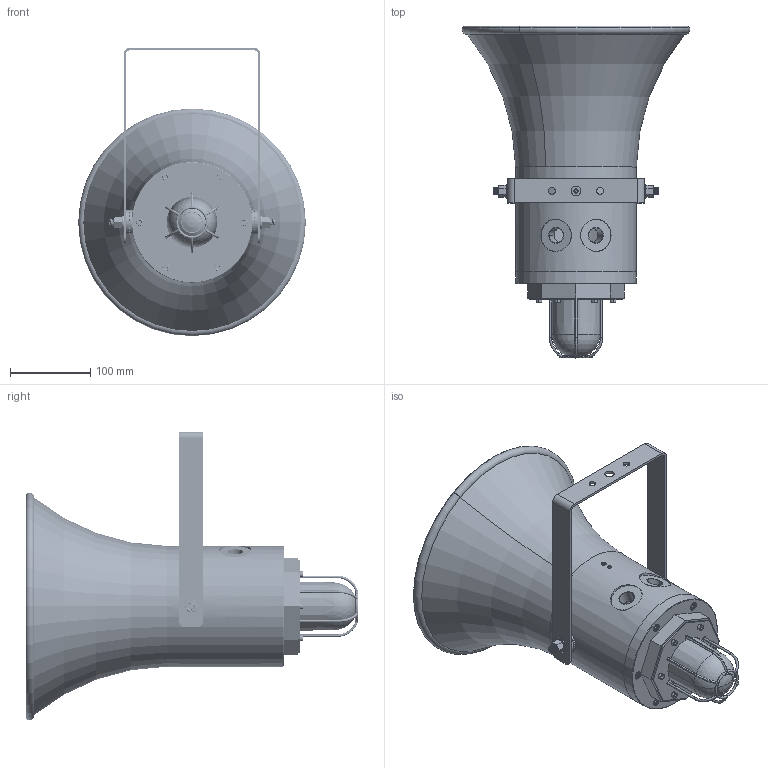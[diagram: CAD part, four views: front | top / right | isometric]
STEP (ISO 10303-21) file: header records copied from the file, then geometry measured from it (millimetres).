
FILE_DESCRIPTION((''),'2;1');
FILE_NAME('0-SB150_ASM','2015-12-21T',('Administrator'),(''),'PRO/ENGINEER BY PARAMETRIC TECHNOLOGY CORPORATION, 2008090','PRO/ENGINEER BY PARAMETRIC TECHNOLOGY CORPORATION, 2008090','');
FILE_SCHEMA(('CONFIG_CONTROL_DESIGN'));
Length unit declared in the file: millimetre
Products named in the file (33): 55050250101; 55050250104; 50050250105; 50050250106; 50050250201; 50050210203; 55050140504; 50050150505; CG; HS; 50050150506; MQ; 50050150501; 55050110107; 55050100620_ASM; 50050280237; 50000010301-M5; M4-10; 50050110204; SPWF8; SANN8-1; 55060250102; 55060170107; 55060250108; 50050210110; 50060210109; 50070150602; 50070150601; 50070120605; 50070150601_ASM; BC150-UPPER-CASE_ASM; 50050110230; 0-SB150_ASM
Assembly tree (56 placements, depth 4):
  0-SB150_ASM
    55050250101
    55050250104
    50050250105
    50050250106
    50050250201  x2
    50050210203
    55050100620_ASM
      55050140504
      50050150505
      CG
      HS
      50050150506
      MQ
      50050150501
      55050110107
    50050280237
    50000010301-M5  x6
    M4-10  x3
    50050110204  x2
    SPWF8  x2
    SANN8-1  x2
    BC150-UPPER-CASE_ASM
      55060250102
      55060170107
      55060250108
      50050210110
      M4-10  x6
      50060210109
      50000010301-M5  x6
      50050280237
      50070150601_ASM
        50070150602
        50070150601
        50070120605
    50050110230
Bounding box: 282.76 x 412.25 x 358.13 mm (x, y, z)
Volume: 3149597.6 mm3; surface area: 897822.3 mm2
Topology: 53 solids, 136 shells, 3795 faces, 9728 edges, 6231 vertices
Faces by surface type: plane 1856, cylinder 1008, cone 380, bspline 260, sphere 156, torus 135
Entity records: 117710 total; most frequent: CARTESIAN_POINT 41407, ORIENTED_EDGE 15966, DIRECTION 15083, EDGE_CURVE 8107, AXIS2_PLACEMENT_3D 5265, VERTEX_POINT 5231, VECTOR 4553, LINE 4553
